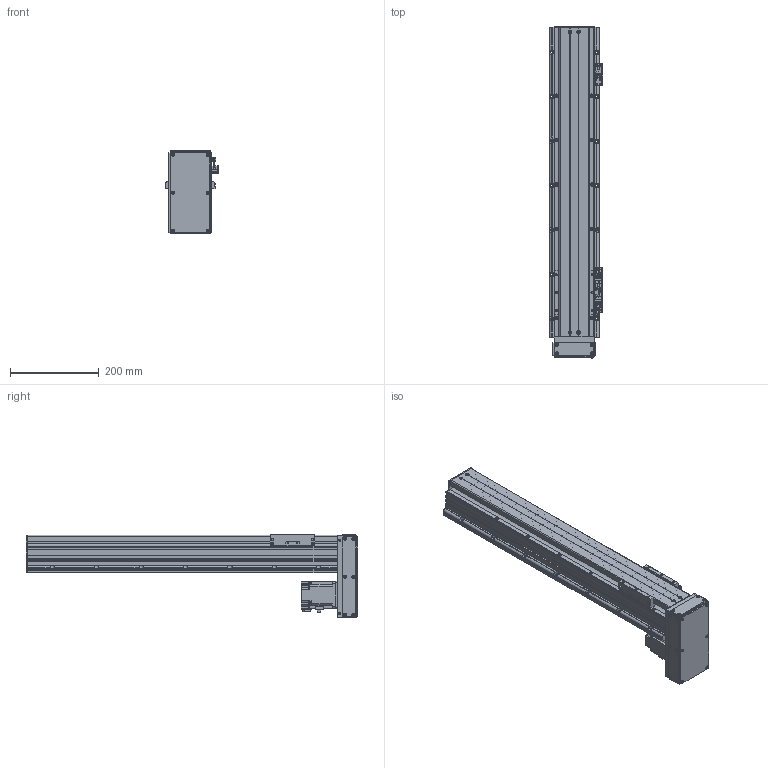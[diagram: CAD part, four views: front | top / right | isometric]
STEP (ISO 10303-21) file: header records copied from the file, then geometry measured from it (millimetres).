
FILE_DESCRIPTION(/* description */ ('MANUFACTURE','CAx-IF Rec.Pracs.---Representation and Presentation of Product Manufacturing Information (PMI)---4.0---2014-10-13'),/* implementation_level */ '2;1');
FILE_NAME(/* name */ '\\192.168.0.160\disk1\HAN SHIN Master\B-설계부문\C-표준\B-2024년\BC02-표준도면\+로봇 개선표준도면\표준 승인도 폴더 - 재작업\3D\HS Type\HS90 - 1RAIL\D - Type\HS90-D20-N1B-0500-R10.stp',/* time_stamp */ '2024-08-26T14:58:40+09:00',/* author */ ('user'),/* organization */ (''),/* preprocessor_version */ 'ST-DEVELOPER v18.1',/* originating_system */ 'Autodesk Inventor 2022',/* authorisation */ 'LIP');
FILE_SCHEMA (('AP242_MANAGED_MODEL_BASED_3D_ENGINEERING_MIM_LF { 1 0 10303 442 1 1 4 }'));
Products named in the file (25): HS90-D20-N1B-0700-R10 (간소화); BASE; UPCOVER; SIDE COVER; HS90 SIDE COVER - 200W 1BLOCK-MIRROR; HR90 FRONT BLOCK; HR90 REAR BLOCK TENSION; S 20R_BLOCK; REAR COVER; STOPPER3; HR120 SENSOR DOG; hg-kr23_; hsr_ftht_A-M6F_grease_nipple_joint; NIPPLE CAP(신규); STOPPER104; MOTOR PLATE-200W(MITSUBISHI); LMKE1520 NUT; HS90 TABLE-SR20W; HS90-D MOTOR PLATE; HS90 D- BELT COVER; HG90DACRYLCOVER001; HG90DACRYLCOVER003; HG90DACRYLCOVER002; SENSOR BRK(EE-SX674A); EE_SX674A
Assembly tree (32 placements, depth 2):
  HS90-D20-N1B-0700-R10 (간소화)
    BASE
    UPCOVER
    SIDE COVER
    HS90 SIDE COVER - 200W 1BLOCK-MIRROR
    HR90 FRONT BLOCK
    HR90 REAR BLOCK TENSION
    S 20R_BLOCK
    REAR COVER
    STOPPER3
    HR120 SENSOR DOG
    SENSOR BRK(EE-SX674A)  x3
    EE_SX674A  x3
    hsr_ftht_A-M6F_grease_nipple_joint  x2
    NIPPLE CAP(신규)  x2
    hg-kr23_
    STOPPER104  x2
    MOTOR PLATE-200W(MITSUBISHI)
    LMKE1520 NUT
    HS90 TABLE-SR20W
    HS90-D MOTOR PLATE
    HS90 D- BELT COVER
    HG90DACRYLCOVER001
    HG90DACRYLCOVER002  x2
    HG90DACRYLCOVER003
Bounding box: 120 x 747 x 187.5 mm (x, y, z)
Volume: 2548540 mm3; surface area: 916460.9 mm2
Topology: 32 solids, 32 shells, 1987 faces, 5453 edges, 3571 vertices
Faces by surface type: plane 1045, cylinder 728, cone 178, sphere 16, torus 12, bspline 8
Full cylindrical faces by diameter (mm): 2.459 x50, 3 x4, 3.242 x54, 3.4 x22, 3.5 x6, 4.134 x53, 4.5 x41, 4.917 x19, 5 x26, 5.5 x13, 5.6 x10, 5.7 x4, 5.8 x4, 5.9 x8, 6 x12, 6.2 x4, 6.5 x4, 8 x5, 9.5 x13, 14 x1, 15 x2, 17 x1, 20 x1, 25 x2, 28 x1, 32 x2, 33.7 x1, 34 x1, 50 x2
Entity records: 62965 total; most frequent: CARTESIAN_POINT 12588, DIRECTION 10166, ORIENTED_EDGE 9216, EDGE_CURVE 4608, AXIS2_PLACEMENT_3D 3689, VERTEX_POINT 3066, LINE 2788, VECTOR 2788
